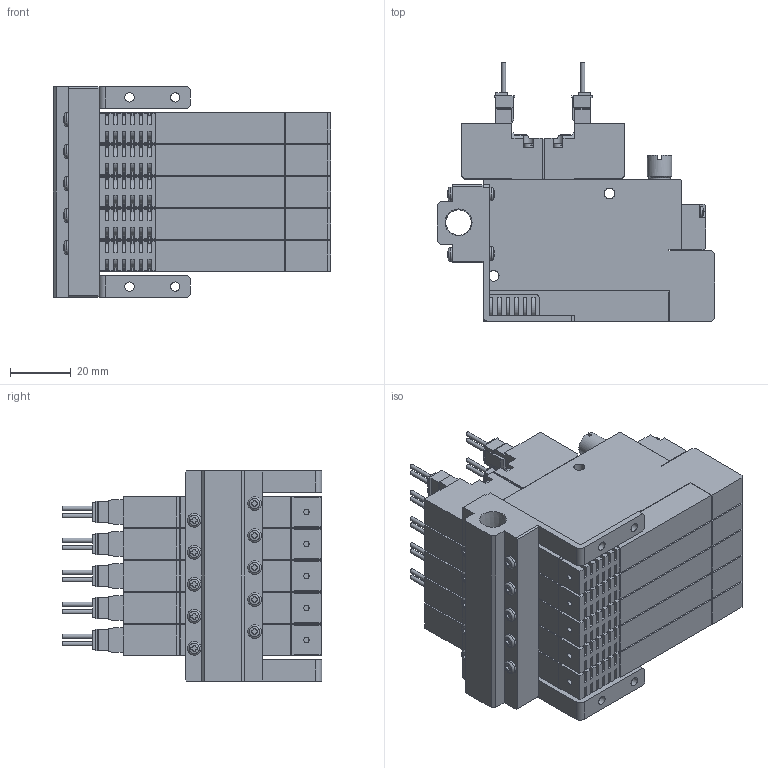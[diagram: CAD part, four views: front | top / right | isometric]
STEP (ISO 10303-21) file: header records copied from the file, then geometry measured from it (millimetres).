
FILE_DESCRIPTION(('STEP AP203'),'1');
FILE_NAME('5SS505_3D.stp','2024-09-04T22:51:15',(' '),(' '),'Spatial InterOp 3D',' ',' ');
FILE_SCHEMA(('CONFIG_CONTROL_DESIGN'));
Length unit declared in the file: millimetre
Products named in the file (5): BSC1M※※ZZ※5SS505; Solenoid valve S; Pressure Sensor ZZ; Unit-S; BaseMS50R
Assembly tree (16 placements, depth 2):
  BSC1M※※ZZ※5SS505
    Solenoid valve S  x5
    Pressure Sensor ZZ  x5
    Unit-S  x5
    BaseMS50R
Bounding box: 91 x 85.05 x 69 mm (x, y, z)
Volume: 223318.2 mm3; surface area: 92989.6 mm2
Topology: 16 solids, 16 shells, 2270 faces, 6220 edges, 4126 vertices
Faces by surface type: plane 1668, cylinder 527, cone 27, sphere 24, torus 24
Full cylindrical faces by diameter (mm): 1.4 x20, 1.8 x5, 2.5 x10, 3 x24, 3.5 x30, 4 x5, 4.134 x10, 4.5 x14, 5.5 x5, 7 x5, 7.7 x5, 8 x5, 8.422 x1
Entity records: 20924 total; most frequent: CARTESIAN_POINT 4606, DIRECTION 3260, ORIENTED_EDGE 3238, EDGE_CURVE 1619, LINE 1134, VECTOR 1134, VERTEX_POINT 1123, AXIS2_PLACEMENT_3D 1063
